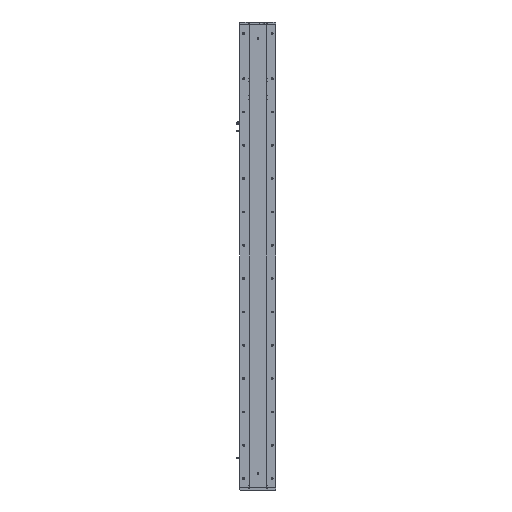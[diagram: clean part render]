
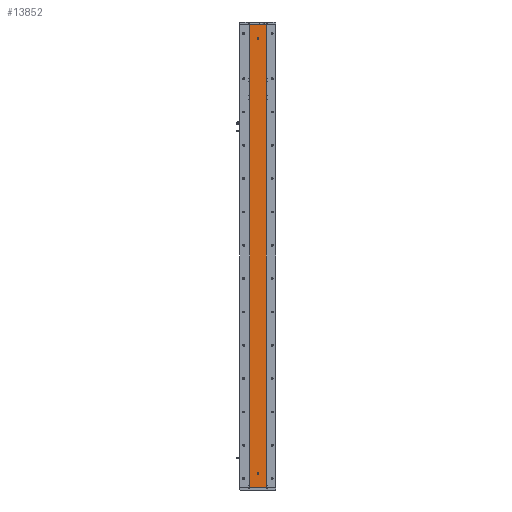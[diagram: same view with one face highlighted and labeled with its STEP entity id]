
A CAD part, left-side view. The second image highlights one B-rep face of the part: STEP entity #13852.
In plain terms, the highlighted planar face has unit normal (-1, 0, 0).
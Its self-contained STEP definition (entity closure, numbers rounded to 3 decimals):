
#352 = CARTESIAN_POINT ( 'NONE',  ( -24.994, 0., 1615. ) ) ;
#761 = EDGE_CURVE ( 'NONE', #33855, #11595, #25810, .T. ) ;
#1776 = DIRECTION ( 'NONE',  ( 0., -1., 0. ) ) ;
#2473 = CARTESIAN_POINT ( 'NONE',  ( -24.994, 0., 50. ) ) ;
#2929 = EDGE_CURVE ( 'NONE', #26116, #22700, #12422, .T. ) ;
#3043 = AXIS2_PLACEMENT_3D ( 'NONE', #5569, #28943, #8929 ) ;
#3493 = VECTOR ( 'NONE', #14195, 1000. ) ;
#3731 = DIRECTION ( 'NONE',  ( 0., 0., 1. ) ) ;
#5424 = EDGE_LOOP ( 'NONE', ( #21184, #16352 ) ) ;
#5515 = AXIS2_PLACEMENT_3D ( 'NONE', #6839, #30223, #10207 ) ;
#5569 = CARTESIAN_POINT ( 'NONE',  ( -24.994, 29.785, 1665. ) ) ;
#5592 = VECTOR ( 'NONE', #1776, 1000. ) ;
#5870 = DIRECTION ( 'NONE',  ( 0., 0., 1. ) ) ;
#6650 = CARTESIAN_POINT ( 'NONE',  ( -24.994, 29.785, 0. ) ) ;
#6763 = EDGE_CURVE ( 'NONE', #42537, #30559, #22994, .T. ) ;
#6839 = CARTESIAN_POINT ( 'NONE',  ( -24.994, 0., 1615. ) ) ;
#8330 = CARTESIAN_POINT ( 'NONE',  ( -24.994, 0., 1612. ) ) ;
#8734 = AXIS2_PLACEMENT_3D ( 'NONE', #29354, #9338, #32735 ) ;
#8778 = PLANE ( 'NONE',  #3043 ) ;
#8929 = DIRECTION ( 'NONE',  ( 0., 0., -1. ) ) ;
#9290 = EDGE_LOOP ( 'NONE', ( #33069, #40180, #33034, #16840 ) ) ;
#9338 = DIRECTION ( 'NONE',  ( -1., 0., 0. ) ) ;
#10207 = DIRECTION ( 'NONE',  ( 0., 0., 1. ) ) ;
#10840 = CARTESIAN_POINT ( 'NONE',  ( -24.994, -29.785, 1665. ) ) ;
#11595 = VERTEX_POINT ( 'NONE', #8330 ) ;
#11878 = EDGE_CURVE ( 'NONE', #11595, #33855, #19506, .T. ) ;
#12297 = CARTESIAN_POINT ( 'NONE',  ( -24.994, 29.785, 0. ) ) ;
#12422 = LINE ( 'NONE', #10840, #3493 ) ;
#13852 = ADVANCED_FACE ( 'NONE', ( #37035, #38088, #29202 ), #8778, .F. ) ;
#14195 = DIRECTION ( 'NONE',  ( 0., 0., -1. ) ) ;
#15601 = ORIENTED_EDGE ( 'NONE', *, *, #761, .F. ) ;
#16352 = ORIENTED_EDGE ( 'NONE', *, *, #17138, .F. ) ;
#16840 = ORIENTED_EDGE ( 'NONE', *, *, #33146, .T. ) ;
#17138 = EDGE_CURVE ( 'NONE', #30559, #42537, #31481, .T. ) ;
#18307 = VECTOR ( 'NONE', #39035, 1000. ) ;
#19506 = CIRCLE ( 'NONE', #5515, 3. ) ;
#19798 = EDGE_LOOP ( 'NONE', ( #15601, #40116 ) ) ;
#20407 = LINE ( 'NONE', #12297, #18307 ) ;
#21184 = ORIENTED_EDGE ( 'NONE', *, *, #6763, .F. ) ;
#21271 = AXIS2_PLACEMENT_3D ( 'NONE', #352, #23742, #3731 ) ;
#22700 = VERTEX_POINT ( 'NONE', #39779 ) ;
#22994 = CIRCLE ( 'NONE', #8734, 3. ) ;
#23742 = DIRECTION ( 'NONE',  ( -1., 0., 0. ) ) ;
#25175 = CARTESIAN_POINT ( 'NONE',  ( -24.994, 29.785, 1665. ) ) ;
#25810 = CIRCLE ( 'NONE', #21271, 3. ) ;
#25869 = DIRECTION ( 'NONE',  ( -1., 0., 0. ) ) ;
#26116 = VERTEX_POINT ( 'NONE', #41793 ) ;
#28786 = EDGE_CURVE ( 'NONE', #38377, #26116, #40084, .T. ) ;
#28943 = DIRECTION ( 'NONE',  ( 1., 0., 0. ) ) ;
#29202 = FACE_OUTER_BOUND ( 'NONE', #9290, .T. ) ;
#29324 = DIRECTION ( 'NONE',  ( 0., 0., -1. ) ) ;
#29354 = CARTESIAN_POINT ( 'NONE',  ( -24.994, 0., 50. ) ) ;
#30098 = CARTESIAN_POINT ( 'NONE',  ( -24.994, 0., 53. ) ) ;
#30223 = DIRECTION ( 'NONE',  ( -1., 0., 0. ) ) ;
#30337 = EDGE_CURVE ( 'NONE', #31099, #22700, #20407, .T. ) ;
#30559 = VERTEX_POINT ( 'NONE', #33610 ) ;
#31099 = VERTEX_POINT ( 'NONE', #6650 ) ;
#31481 = CIRCLE ( 'NONE', #40465, 3. ) ;
#32326 = VECTOR ( 'NONE', #29324, 1000. ) ;
#32735 = DIRECTION ( 'NONE',  ( 0., 0., 1. ) ) ;
#33034 = ORIENTED_EDGE ( 'NONE', *, *, #28786, .F. ) ;
#33069 = ORIENTED_EDGE ( 'NONE', *, *, #30337, .T. ) ;
#33146 = EDGE_CURVE ( 'NONE', #38377, #31099, #33356, .T. ) ;
#33356 = LINE ( 'NONE', #39434, #32326 ) ;
#33610 = CARTESIAN_POINT ( 'NONE',  ( -24.994, 0., 47. ) ) ;
#33855 = VERTEX_POINT ( 'NONE', #42359 ) ;
#37035 = FACE_BOUND ( 'NONE', #19798, .T. ) ;
#38088 = FACE_BOUND ( 'NONE', #5424, .T. ) ;
#38377 = VERTEX_POINT ( 'NONE', #39304 ) ;
#39035 = DIRECTION ( 'NONE',  ( 0., -1., 0. ) ) ;
#39304 = CARTESIAN_POINT ( 'NONE',  ( -24.994, 29.785, 1665. ) ) ;
#39434 = CARTESIAN_POINT ( 'NONE',  ( -24.994, 29.785, 1665. ) ) ;
#39779 = CARTESIAN_POINT ( 'NONE',  ( -24.994, -29.785, 0. ) ) ;
#40084 = LINE ( 'NONE', #25175, #5592 ) ;
#40116 = ORIENTED_EDGE ( 'NONE', *, *, #11878, .F. ) ;
#40180 = ORIENTED_EDGE ( 'NONE', *, *, #2929, .F. ) ;
#40465 = AXIS2_PLACEMENT_3D ( 'NONE', #2473, #25869, #5870 ) ;
#41793 = CARTESIAN_POINT ( 'NONE',  ( -24.994, -29.785, 1665. ) ) ;
#42359 = CARTESIAN_POINT ( 'NONE',  ( -24.994, 0., 1618. ) ) ;
#42537 = VERTEX_POINT ( 'NONE', #30098 ) ;
